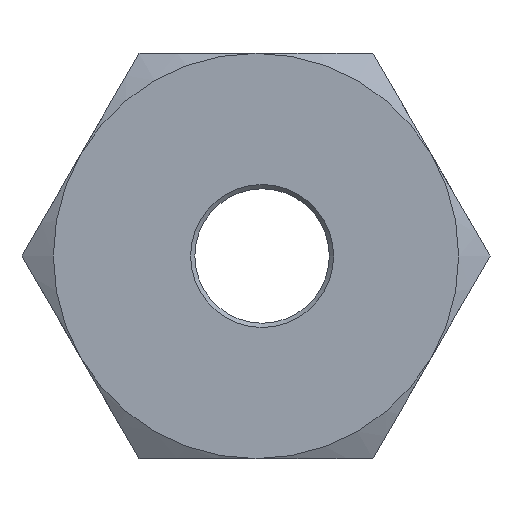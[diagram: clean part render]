
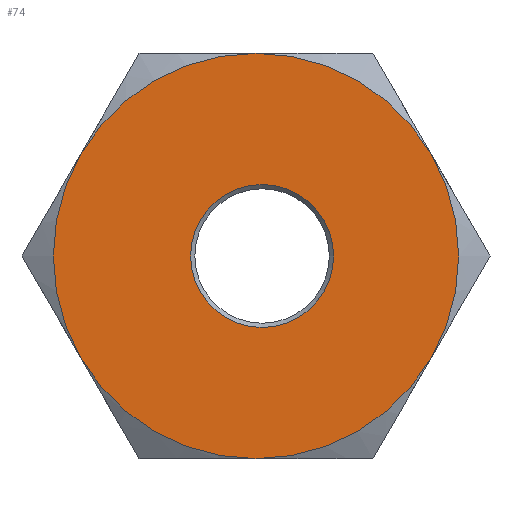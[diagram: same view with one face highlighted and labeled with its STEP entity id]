
A CAD part, left-side view. The second image highlights one B-rep face of the part: STEP entity #74.
In plain terms, the highlighted planar face has unit normal (-1, 0, 0).
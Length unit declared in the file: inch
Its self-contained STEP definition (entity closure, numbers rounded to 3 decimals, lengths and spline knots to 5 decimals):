
#74 = ADVANCED_FACE( '', ( #161, #162 ), #163, .F. );
#161 = FACE_OUTER_BOUND( '', #262, .T. );
#162 = FACE_BOUND( '', #263, .T. );
#163 = PLANE( '', #264 );
#262 = EDGE_LOOP( '', ( #404, #405, #406, #407, #408, #409 ) );
#263 = EDGE_LOOP( '', ( #410 ) );
#264 = AXIS2_PLACEMENT_3D( '', #411, #412, #413 );
#404 = ORIENTED_EDGE( '', *, *, #578, .F. );
#405 = ORIENTED_EDGE( '', *, *, #575, .F. );
#406 = ORIENTED_EDGE( '', *, *, #572, .F. );
#407 = ORIENTED_EDGE( '', *, *, #579, .F. );
#408 = ORIENTED_EDGE( '', *, *, #563, .F. );
#409 = ORIENTED_EDGE( '', *, *, #580, .F. );
#410 = ORIENTED_EDGE( '', *, *, #581, .T. );
#411 = CARTESIAN_POINT( '', ( 0., 0., 0. ) );
#412 = DIRECTION( '', ( 1., 0., 0. ) );
#413 = DIRECTION( '', ( 0., 0., -1. ) );
#563 = EDGE_CURVE( '', #635, #661, #663, .T. );
#572 = EDGE_CURVE( '', #672, #676, #677, .T. );
#575 = EDGE_CURVE( '', #676, #648, #680, .T. );
#578 = EDGE_CURVE( '', #648, #683, #684, .T. );
#579 = EDGE_CURVE( '', #661, #672, #685, .T. );
#580 = EDGE_CURVE( '', #683, #635, #686, .T. );
#581 = EDGE_CURVE( '', #687, #687, #688, .T. );
#635 = VERTEX_POINT( '', #769 );
#648 = VERTEX_POINT( '', #804 );
#661 = VERTEX_POINT( '', #839 );
#663 = CIRCLE( '', #848, 0.23622 );
#672 = VERTEX_POINT( '', #859 );
#676 = VERTEX_POINT( '', #873 );
#677 = CIRCLE( '', #874, 0.23622 );
#680 = CIRCLE( '', #882, 0.23622 );
#683 = VERTEX_POINT( '', #890 );
#684 = CIRCLE( '', #891, 0.23622 );
#685 = CIRCLE( '', #892, 0.23622 );
#686 = CIRCLE( '', #893, 0.23622 );
#687 = VERTEX_POINT( '', #894 );
#688 = CIRCLE( '', #895, 0.08335 );
#769 = CARTESIAN_POINT( '', ( 0., 0., 0.23622 ) );
#804 = CARTESIAN_POINT( '', ( 0., 0.20457, -0.11811 ) );
#839 = CARTESIAN_POINT( '', ( 0., -0.20457, 0.11811 ) );
#848 = AXIS2_PLACEMENT_3D( '', #982, #983, #984 );
#859 = CARTESIAN_POINT( '', ( 0., -0.20457, -0.11811 ) );
#873 = CARTESIAN_POINT( '', ( 0., 0., -0.23622 ) );
#874 = AXIS2_PLACEMENT_3D( '', #990, #991, #992 );
#882 = AXIS2_PLACEMENT_3D( '', #993, #994, #995 );
#890 = CARTESIAN_POINT( '', ( 0., 0.20457, 0.11811 ) );
#891 = AXIS2_PLACEMENT_3D( '', #996, #997, #998 );
#892 = AXIS2_PLACEMENT_3D( '', #999, #1000, #1001 );
#893 = AXIS2_PLACEMENT_3D( '', #1002, #1003, #1004 );
#894 = CARTESIAN_POINT( '', ( 0., -0.00709, -0.08335 ) );
#895 = AXIS2_PLACEMENT_3D( '', #1005, #1006, #1007 );
#982 = CARTESIAN_POINT( '', ( 0., 0., 0. ) );
#983 = DIRECTION( '', ( 1., 0., 0. ) );
#984 = DIRECTION( '', ( 0., 0., -1. ) );
#990 = CARTESIAN_POINT( '', ( 0., 0., 0. ) );
#991 = DIRECTION( '', ( 1., 0., 0. ) );
#992 = DIRECTION( '', ( 0., 0., -1. ) );
#993 = CARTESIAN_POINT( '', ( 0., 0., 0. ) );
#994 = DIRECTION( '', ( 1., 0., 0. ) );
#995 = DIRECTION( '', ( 0., 0., -1. ) );
#996 = CARTESIAN_POINT( '', ( 0., 0., 0. ) );
#997 = DIRECTION( '', ( 1., 0., 0. ) );
#998 = DIRECTION( '', ( 0., 0., -1. ) );
#999 = CARTESIAN_POINT( '', ( 0., 0., 0. ) );
#1000 = DIRECTION( '', ( 1., 0., 0. ) );
#1001 = DIRECTION( '', ( 0., 0., -1. ) );
#1002 = CARTESIAN_POINT( '', ( 0., 0., 0. ) );
#1003 = DIRECTION( '', ( 1., 0., 0. ) );
#1004 = DIRECTION( '', ( 0., 0., -1. ) );
#1005 = CARTESIAN_POINT( '', ( 0., -0.00709, 0. ) );
#1006 = DIRECTION( '', ( 1., 0., 0. ) );
#1007 = DIRECTION( '', ( 0., 0., -1. ) );
